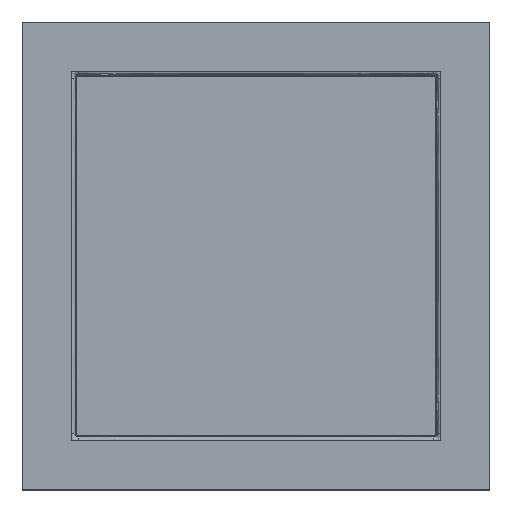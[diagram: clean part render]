
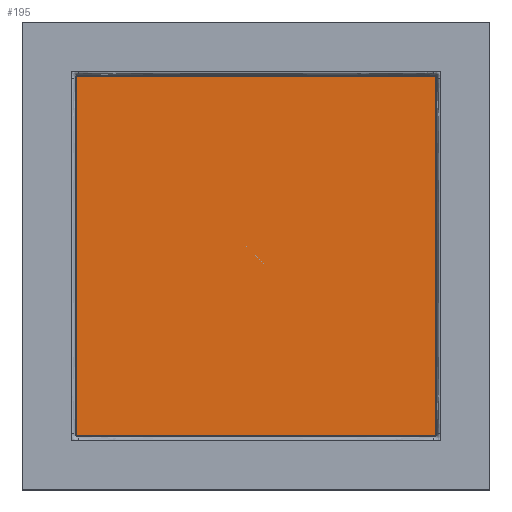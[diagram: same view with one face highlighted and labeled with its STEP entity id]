
A CAD part, front view. The second image highlights one B-rep face of the part: STEP entity #195.
In plain terms, the highlighted planar face has unit normal (0, -1, 0).
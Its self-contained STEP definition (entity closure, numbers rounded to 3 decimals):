
#195=ADVANCED_FACE('',(#344),#2328,.T.);
#344=FACE_OUTER_BOUND('',#493,.T.);
#493=EDGE_LOOP('',(#688,#689,#690,#691));
#688=ORIENTED_EDGE('',*,*,#1405,.F.);
#689=ORIENTED_EDGE('',*,*,#1403,.F.);
#690=ORIENTED_EDGE('',*,*,#1404,.F.);
#691=ORIENTED_EDGE('',*,*,#1402,.F.);
#1402=EDGE_CURVE('',#2080,#2081,#1759,.T.);
#1403=EDGE_CURVE('',#2082,#2083,#1760,.T.);
#1404=EDGE_CURVE('',#2081,#2082,#1761,.T.);
#1405=EDGE_CURVE('',#2083,#2080,#1762,.T.);
#1759=B_SPLINE_CURVE_WITH_KNOTS('',1,(#2780,#2781),.UNSPECIFIED.,.F.,.F.,
(2,2),(1.,1539.),.UNSPECIFIED.);
#1760=B_SPLINE_CURVE_WITH_KNOTS('',1,(#2782,#2783),.UNSPECIFIED.,.F.,.F.,
(2,2),(1.,1539.),.UNSPECIFIED.);
#1761=B_SPLINE_CURVE_WITH_KNOTS('',1,(#2784,#2785),.UNSPECIFIED.,.F.,.F.,
(2,2),(1.,1539.),.UNSPECIFIED.);
#1762=B_SPLINE_CURVE_WITH_KNOTS('',1,(#2786,#2787),.UNSPECIFIED.,.F.,.F.,
(2,2),(1.,1539.),.UNSPECIFIED.);
#2080=VERTEX_POINT('',#2740);
#2081=VERTEX_POINT('',#2741);
#2082=VERTEX_POINT('',#2742);
#2083=VERTEX_POINT('',#2743);
#2328=PLANE('',#2456);
#2456=AXIS2_PLACEMENT_3D('',#2678,#2567,$);
#2567=DIRECTION('',(0.,-1.,0.));
#2678=CARTESIAN_POINT('',(2874.961,3.,-404.696));
#2740=CARTESIAN_POINT('',(2873.961,3.,-403.696));
#2741=CARTESIAN_POINT('',(1335.961,3.,-403.696));
#2742=CARTESIAN_POINT('',(1335.961,3.,1134.304));
#2743=CARTESIAN_POINT('',(2873.961,3.,1134.304));
#2780=CARTESIAN_POINT('',(2873.961,3.,-403.696));
#2781=CARTESIAN_POINT('',(1335.961,3.,-403.696));
#2782=CARTESIAN_POINT('',(1335.961,3.,1134.304));
#2783=CARTESIAN_POINT('',(2873.961,3.,1134.304));
#2784=CARTESIAN_POINT('',(1335.961,3.,-403.696));
#2785=CARTESIAN_POINT('',(1335.961,3.,1134.304));
#2786=CARTESIAN_POINT('',(2873.961,3.,1134.304));
#2787=CARTESIAN_POINT('',(2873.961,3.,-403.696));
